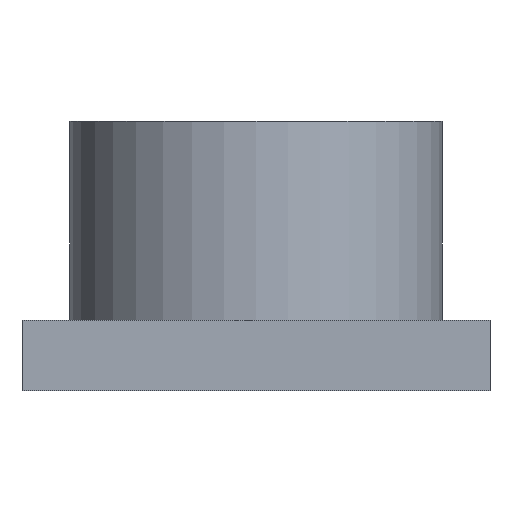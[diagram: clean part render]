
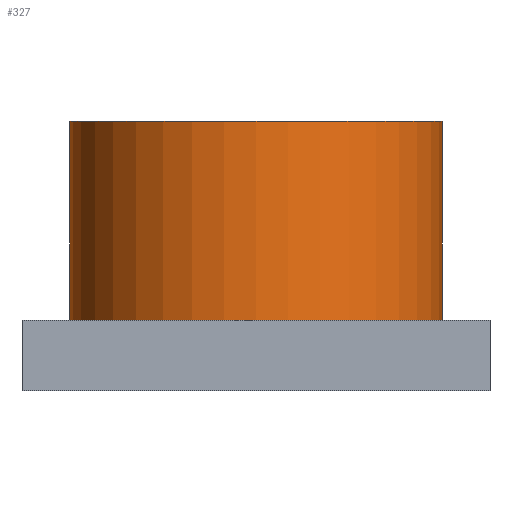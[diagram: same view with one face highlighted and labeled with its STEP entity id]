
A CAD part, front view. The second image highlights one B-rep face of the part: STEP entity #327.
In plain terms, the highlighted cylindrical face has radius 15.9 mm (diameter 31.8 mm), a full revolution.
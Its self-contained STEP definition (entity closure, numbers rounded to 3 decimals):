
#13=FACE_BOUND($,#62,.T.);
#45=FACE_OUTER_BOUND($,#61,.T.);
#61=EDGE_LOOP($,(#247));
#62=EDGE_LOOP($,(#248));
#142=CIRCLE($,#359,15.9);
#143=CIRCLE($,#360,15.9);
#162=VERTEX_POINT($,#514);
#163=VERTEX_POINT($,#516);
#198=EDGE_CURVE($,#162,#162,#142,.T.);
#199=EDGE_CURVE($,#163,#163,#143,.T.);
#247=ORIENTED_EDGE($,*,*,#198,.F.);
#248=ORIENTED_EDGE($,*,*,#199,.F.);
#297=CYLINDRICAL_SURFACE($,#358,15.9);
#327=ADVANCED_FACE($,(#45,#13),#297,.T.);
#358=AXIS2_PLACEMENT_3D($,#513,#426,#427);
#359=AXIS2_PLACEMENT_3D($,#515,#428,#429);
#360=AXIS2_PLACEMENT_3D($,#517,#430,#431);
#426=DIRECTION('center_axis',(0.,0.,1.));
#427=DIRECTION('ref_axis',(-1.,0.,0.));
#428=DIRECTION('center_axis',(0.,0.,1.));
#429=DIRECTION('ref_axis',(-1.,0.,0.));
#430=DIRECTION('center_axis',(0.,0.,-1.));
#431=DIRECTION('ref_axis',(-1.,0.,0.));
#513=CARTESIAN_POINT('Origin',(0.,0.,6.));
#514=CARTESIAN_POINT('',(15.9,0.,23.));
#515=CARTESIAN_POINT('Origin',(0.,0.,23.));
#516=CARTESIAN_POINT('',(15.9,0.,6.));
#517=CARTESIAN_POINT('Origin',(0.,0.,6.));
